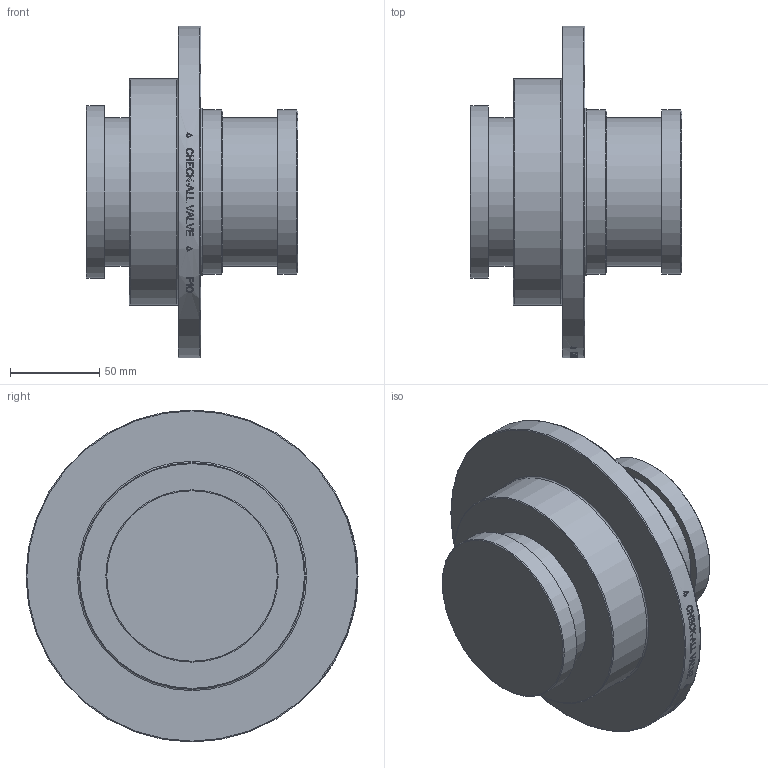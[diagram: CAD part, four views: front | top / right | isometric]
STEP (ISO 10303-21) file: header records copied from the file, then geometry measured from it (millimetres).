
FILE_DESCRIPTION( ( 'Unknown' ), '1' );
FILE_NAME( 'Y:/ENGR/3D Solid Edge Models/F1/F1 STEP/F1O.stp', 'Unknown', ( 'Unknown' ), ( 'Unknown' ), 'PSStep 14.0', 'Unknown', ' ' );
FILE_SCHEMA( ( 'AUTOMOTIVE_DESIGN { 1 0 10303 214 1 1 1 1 }' ) );
Length unit declared in the file: millimetre
Products named in the file (1): 1
Bounding box: 118.57 x 185.74 x 185.74 mm (x, y, z)
Volume: 1166261.6 mm3; surface area: 99288.1 mm2
Topology: 1 solids, 1 shells, 209 faces, 521 edges, 345 vertices
Faces by surface type: plane 125, bspline 45, cylinder 31, torus 5, cone 3
Full cylindrical faces by diameter (mm): 83.312 x2, 91.948 x2, 96.393 x1, 126.746 x1, 185.738 x1
Entity records: 9656 total; most frequent: CARTESIAN_POINT 4107, ORIENTED_EDGE 1008, EDGE_CURVE 504, B_SPLINE_CURVE_WITH_KNOTS 481, DIRECTION 376, VERTEX_POINT 345, EDGE_LOOP 257, FACE_OUTER_BOUND 223
